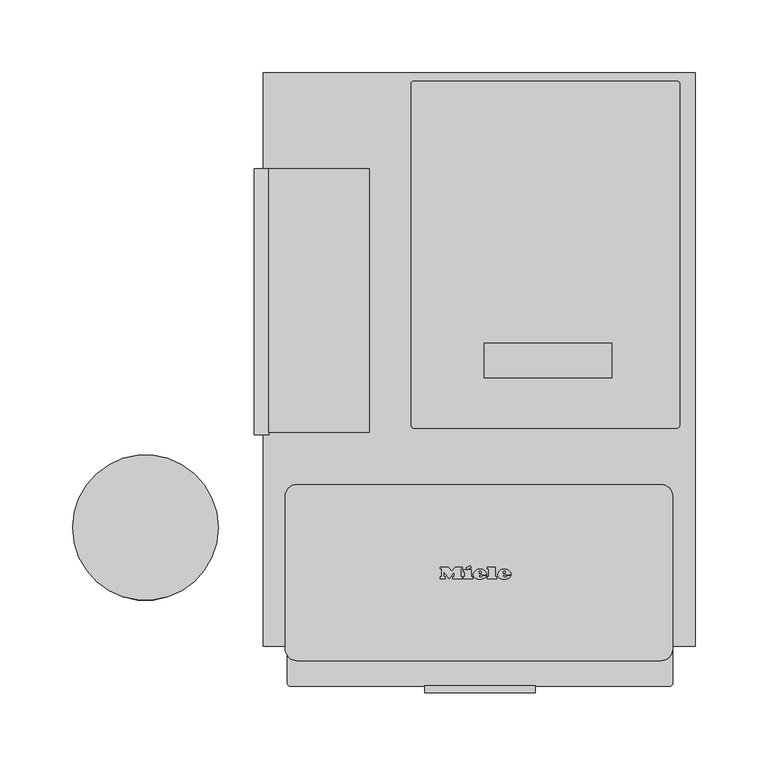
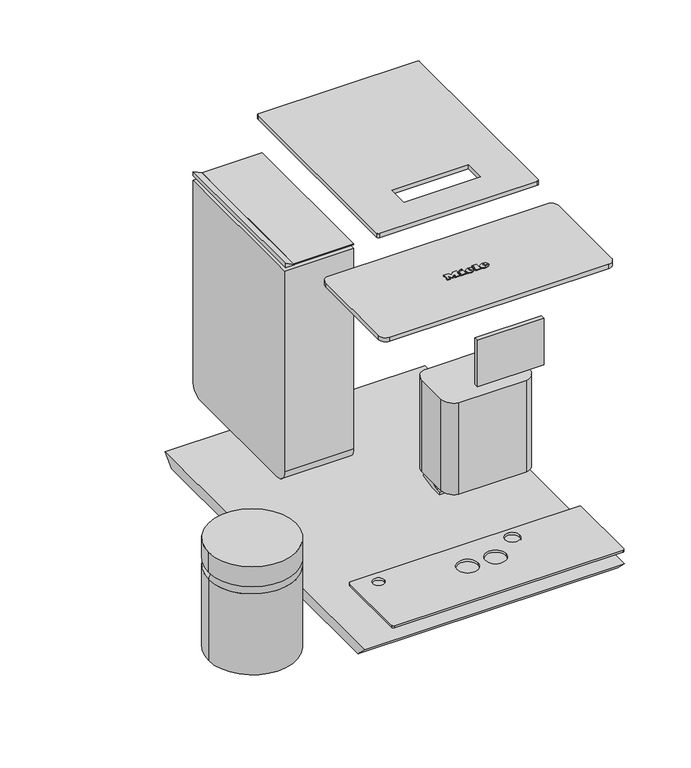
"""IFC4 building model written with IfcOpenShell, lengths in millimetres: proxy geometry, 10947410_D_CM7550_OBSW : 29755020_D_10947410_CM7550_OBSW."""

from ifc_helpers import new_model, si_unit, point, frame, frame_2d, origin, place, context, project, spatial, polyline, circle_curve, ellipse_curve, trimmed, segment, composite_curve, outline, extrude, source, transform, mapped, element, save
from ifc_brep_helpers import plane_surface, cylinder_surface, revolved_surface, extruded_surface, advanced_brep


def specialty_equipment_66c0ec8a(model_context):
    return source(origin(), model_context, "Body", "SolidModel", [
        advanced_brep(
        [(48.9347044, -350.553441, 157.6595251), (48.9347044, -352.1242227, 164.4633282), (48.9347044, -358.515093, 164.4633282), (48.9347044, -370.8076358, 161.8504675), (48.9347044, -371.768887, 161.3772661), (48.9347044, -376.3814874, 157.3675938), (48.9347044, -382.6123957, 157.3675938), (48.9347044, -382.6123957, 154.4386806), (48.9347044, -368.8197581, 154.4386806), (-49.1367985, -350.553441, 157.6595251), (-49.1367985, -368.8197581, 154.4386806), (-49.1367985, -382.6123957, 154.4386806), (-49.1367985, -382.6123957, 157.3675938), (-49.1367985, -376.3814874, 157.3675938), (-49.1367985, -371.768887, 161.3772661), (-49.1367985, -370.8076358, 161.8504675), (-49.1367985, -358.515093, 164.4633282), (-49.1367985, -352.1242227, 164.4633282), (-26.907768, -371.768887, 161.3772661), (26.907768, -371.768887, 161.3772661), (27.9558868, -374.6430309, 158.8788109), (27.9558868, -376.3814874, 157.3675938), (-27.9558868, -376.3814874, 157.3675938), (-27.9558868, -374.6430309, 158.8788109), (27.9558868, -382.6123957, 157.3675938), (-27.9558868, -382.6123957, 157.3675938), (27.9558868, -382.6123957, 154.4386806), (-27.9558868, -382.6123957, 154.4386806), (27.9558868, -374.6430309, 154.4386806), (21.9798889, -369.1927719, 154.4386806), (3.5988064, -369.1927719, 154.4386806), (2.7634089, -368.8197581, 154.4386806), (-2.955399, -368.8197581, 154.4386806), (-3.6390347, -369.1927719, 154.4386806), (-21.9798889, -369.1927719, 154.4386806), (-27.9558868, -374.6430309, 154.4386806), (2.501261, -367.8379104, 154.6118068), (2.5085862, -365.8421526, 154.9637128), (-2.5488111, -365.8411419, 154.963891), (-2.5488111, -367.8394647, 154.6115327), (-21.9798889, -369.1927719, 161.3772661), (-3.6390347, -369.1927719, 161.3772661), (-2.5488111, -367.8394647, 161.3772661), (-2.5488111, -365.8411419, 161.3772661), (2.5085862, -365.8421526, 161.3772661), (2.5085862, -367.8394647, 161.3772661), (3.5988064, -369.1927719, 161.3772661), (21.9798889, -369.1927719, 161.3772661)],
        [
            (0, 1),
            (1, 2),
            (2, 3),
            (3, 4, circle_curve(frame((48.9347044, -370.3539063, 159.7158378), z_axis=(1.0, 0.0, 0.0), x_axis=(0.0, 1.0, 0.0)), 2.1823186)),
            (4, 5),
            (5, 6),
            (6, 7),
            (7, 8),
            (8, 0),
            (9, 10),
            (10, 11),
            (11, 12),
            (12, 13),
            (13, 14),
            (14, 15, circle_curve(frame((-49.1367985, -370.3539063, 159.7158378), z_axis=(-1.0, 0.0, 0.0), x_axis=(0.0, 1.0, 0.0)), 2.1823186)),
            (15, 16),
            (16, 17),
            (17, 9),
            (0, 9),
            (17, 1),
            (16, 2),
            (15, 3),
            (14, 18),
            (18, 19),
            (19, 4),
            (19, 20, ellipse_curve(frame((21.9798889, -375.1941266, 158.3997508), z_axis=(0.0, 0.6560590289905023, -0.7547095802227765), x_axis=(0.0, 0.7547095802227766, 0.6560590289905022)), 7.9518729, 6.0013546)),
            (20, 21),
            (21, 5),
            (13, 22),
            (22, 23),
            (23, 18, ellipse_curve(frame((-21.9798889, -375.1941266, 158.3997508), z_axis=(0.0, 0.6560590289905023, -0.7547095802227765), x_axis=(0.0, 0.7547095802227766, 0.6560590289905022)), 7.9518729, 6.0013546)),
            (21, 24),
            (24, 6),
            (12, 25),
            (25, 22),
            (24, 26),
            (26, 7),
            (11, 27),
            (27, 25),
            (26, 28),
            (28, 29, circle_curve(frame((21.9798889, -375.1941266, 154.4386806), z_axis=(0.0, 0.0, 1.0), x_axis=(1.0, 0.0, 0.0)), 6.0013546)),
            (29, 30),
            (30, 31, circle_curve(frame((3.5988064, -368.0707917, 154.4386806), z_axis=(0.0, 0.0, -1.0), x_axis=(1.0, 0.0, 0.0)), 1.1219802)),
            (31, 8),
            (10, 32),
            (32, 33, circle_curve(frame((-3.9338609, -367.8394647, 154.4386806), z_axis=(0.0, 0.0, -1.0), x_axis=(1.0, 0.0, 0.0)), 1.3850498)),
            (33, 34),
            (34, 35, circle_curve(frame((-21.9798889, -375.1941266, 154.4386806), z_axis=(0.0, 0.0, 1.0), x_axis=(1.0, 0.0, 0.0)), 6.0013546)),
            (35, 27),
            (31, 36, ellipse_curve(frame((3.5988064, -368.0707917, 154.5707435), z_axis=(0.0, 0.17364817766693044, -0.984807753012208), x_axis=(0.0, -0.9848077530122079, -0.17364817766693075)), 1.1392885, 1.1219802)),
            (36, 37),
            (37, 38, ellipse_curve(frame((-0.0204016, -367.2885217, 154.7086789), z_axis=(0.0, -0.17364817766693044, 0.984807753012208), x_axis=(0.0, 0.9848077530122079, 0.17364817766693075)), 2.9583201, 2.9133766)),
            (38, 39),
            (39, 32, ellipse_curve(frame((-3.9338609, -367.8394647, 154.6115327), z_axis=(0.0, 0.17364817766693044, -0.984807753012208), x_axis=(0.0, -0.9848077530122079, -0.17364817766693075)), 1.4064164, 1.3850498)),
            (40, 41),
            (41, 42, circle_curve(frame((-3.9338609, -367.8394647, 161.3772661), z_axis=(0.0, 0.0, 1.0), x_axis=(1.0, 0.0, 0.0)), 1.3850498)),
            (42, 43),
            (43, 44, circle_curve(frame((-0.0204016, -367.2885217, 161.3772661), z_axis=(0.0, 0.0, -1.0), x_axis=(1.0, 0.0, 0.0)), 2.9133766)),
            (44, 45),
            (45, 46, circle_curve(frame((3.5988064, -368.0707917, 161.3772661), z_axis=(0.0, 0.0, 1.0), x_axis=(1.0, 0.0, 0.0)), 1.1219802)),
            (46, 47),
            (47, 19, circle_curve(frame((21.9798889, -375.1941266, 161.3772661), z_axis=(0.0, 0.0, -1.0), x_axis=(1.0, 0.0, 0.0)), 6.0013546)),
            (18, 40, circle_curve(frame((-21.9798889, -375.1941266, 161.3772661), z_axis=(0.0, 0.0, -1.0), x_axis=(1.0, 0.0, 0.0)), 6.0013546)),
            (46, 30),
            (29, 47),
            (45, 36),
            (44, 37),
            (43, 38),
            (42, 39),
            (41, 33),
            (40, 34),
            (23, 35),
            (20, 28),
        ],
        [
            plane_surface(frame((48.9347044, -352.1242227, 164.4633282), z_axis=(1.0, 0.0, 0.0), x_axis=(0.0, -0.22495105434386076, 0.9743700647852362))),
            plane_surface(frame((-49.1367985, -352.1242227, 164.4633282), z_axis=(-1.0, 0.0, 0.0), x_axis=(0.0, 0.22495105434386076, -0.9743700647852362))),
            plane_surface(frame((48.9347044, -350.553441, 157.6595251), z_axis=(0.0, 0.9743700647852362, 0.22495105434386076), x_axis=(-1.0, 0.0, 0.0))),
            plane_surface(frame((48.9347044, -352.1242227, 164.4633282), z_axis=(0.0, 0.0, 1.0), x_axis=(-1.0, 0.0, 0.0))),
            plane_surface(frame((48.9347044, -358.515093, 164.4633282), z_axis=(0.0, -0.20791169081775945, 0.9781476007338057), x_axis=(-1.0, 0.0, 0.0))),
            cylinder_surface(frame((-49.1367985, -370.3539063, 159.7158378), z_axis=(1.0, 0.0, 0.0), x_axis=(0.0, 1.0, 0.0)), 2.1823186),
            plane_surface(frame((48.9347044, -371.768887, 161.3772661), z_axis=(0.0, -0.6560590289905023, 0.7547095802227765), x_axis=(-1.0, 0.0, 0.0))),
            plane_surface(frame((48.9347044, -376.3814874, 157.3675938), z_axis=(0.0, 0.0, 1.0), x_axis=(-1.0, 0.0, 0.0))),
            plane_surface(frame((48.9347044, -382.6123957, 157.3675938), z_axis=(0.0, -1.0, 0.0), x_axis=(-1.0, 0.0, 0.0))),
            plane_surface(frame((48.9347044, -382.6123957, 154.4386806), z_axis=(0.0, 0.0, -1.0), x_axis=(-1.0, 0.0, 0.0))),
            plane_surface(frame((48.9347044, -368.8197581, 154.4386806), z_axis=(0.0, 0.17364817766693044, -0.984807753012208), x_axis=(-1.0, 0.0, 0.0))),
            plane_surface(frame((3.5988064, -369.1927719, 161.3772661), z_axis=(0.0, 0.0, -1.0), x_axis=(-1.0, 0.0, 0.0))),
            plane_surface(frame((21.9798889, -369.1927719, 161.3772661), z_axis=(0.0, -1.0, 0.0), x_axis=(0.0, 0.0, -1.0))),
            cylinder_surface(frame((3.5988064, -368.0707917, 148.8055891), z_axis=(0.0, 0.0, -1.0), x_axis=(1.0, 0.0, 0.0)), 1.1219802),
            plane_surface(frame((2.5085862, -367.8394647, 161.3772661), z_axis=(-1.0, 0.0, 0.0), x_axis=(0.0, 0.0, -1.0))),
            revolved_surface(polyline([(2.892975, -367.2885217, 161.3772661), (2.892975, -367.2885217, 154.19497200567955)]), (-0.0204016, -367.2885217, 148.8055891), (0.0, 0.0, 1.0)),
            plane_surface(frame((-2.5488111, -365.8411419, 161.3772661), z_axis=(1.0, 0.0, 0.0), x_axis=(0.0, 0.0, -1.0))),
            cylinder_surface(frame((-3.9338609, -367.8394647, 148.8055891), z_axis=(0.0, 0.0, -1.0), x_axis=(1.0, 0.0, 0.0)), 1.3850498),
            plane_surface(frame((-3.6390347, -369.1927719, 161.3772661), z_axis=(0.0, -1.0, 0.0), x_axis=(0.0, 0.0, -1.0))),
            revolved_surface(polyline([(-15.9785343, -375.1941266, 163.6166488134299), (-15.9785343, -375.1941266, 153.1828527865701)]), (-21.9798889, -375.1941266, 148.8055891), (0.0, 0.0, 1.0)),
            plane_surface(frame((-27.9558868, -374.6430309, 161.3772661), z_axis=(1.0, 0.0, 0.0), x_axis=(0.0, 0.0, -1.0))),
            plane_surface(frame((27.9558868, -386.10478, 161.3772661), z_axis=(-1.0, 0.0, 0.0), x_axis=(0.0, 0.0, -1.0))),
            revolved_surface(polyline([(27.981243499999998, -375.1941266, 163.6166488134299), (27.981243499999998, -375.1941266, 153.1828527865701)]), (21.9798889, -375.1941266, 148.8055891), (0.0, 0.0, 1.0)),
        ],
        [
            (0, [[1, 2, 3, 4, 5, 6, 7, 8, 9]]),
            (1, [[10, 11, 12, 13, 14, 15, 16, 17, 18]]),
            (2, [[-1, 19, -18, 20]]),
            (3, [[-2, -20, -17, 21]]),
            (4, [[-3, -21, -16, 22]]),
            (5, [[-4, -22, -15, 23, 24, 25]]),
            (6, [[-5, -25, 26, 27, 28]]),
            (6, [[-14, 29, 30, 31, -23]]),
            (7, [[-6, -28, 32, 33]]),
            (7, [[-13, 34, 35, -29]]),
            (8, [[-7, -33, 36, 37]]),
            (8, [[-12, 38, 39, -34]]),
            (9, [[-8, -37, 40, 41, 42, 43, 44]]),
            (9, [[-11, 45, 46, 47, 48, 49, -38]]),
            (10, [[-9, -44, 50, 51, 52, 53, 54, -45, -10, -19]]),
            (11, [[55, 56, 57, 58, 59, 60, 61, 62, -24, 63]]),
            (12, [[-61, 64, -42, 65]]),
            (13, [[-60, 66, -50, -43, -64]]),
            (14, [[-59, 67, -51, -66]]),
            (15, [[-58, 68, -52, -67]]),
            (16, [[-57, 69, -53, -68]]),
            (17, [[-56, 70, -46, -54, -69]]),
            (18, [[-55, 71, -47, -70]]),
            (19, [[-63, -31, 72, -48, -71]]),
            (20, [[-72, -30, -35, -39, -49]]),
            (21, [[73, -40, -36, -32, -27]]),
            (22, [[-62, -65, -41, -73, -26]]),
        ],
    ),
        extrude(outline(composite_curve([segment(polyline([(38.3905057, -403.7777426), (-39.7114952, -403.7777426)]), True, "CONTINUOUS"), segment(trimmed(circle_curve(frame_2d((-35.7828285, -388.5783629)), 15.6989033), [point((-39.7114952, -403.7777426))], [point((-51.4817318, -388.5783629))], False, "CARTESIAN"), True, "CONTINUOUS"), segment(polyline([(-51.4817318, -388.5783629), (-51.4817318, -350.8926661)]), True, "CONTINUOUS"), segment(trimmed(circle_curve(frame_2d((-37.9279503, -350.8926661)), 13.5537815), [point((-51.4817318, -350.8926661))], [point((-37.9279503, -337.3388846))], False, "CARTESIAN"), True, "CONTINUOUS"), segment(polyline([(-37.9279503, -337.3388846), (36.6069608, -337.3388846)]), True, "CONTINUOUS"), segment(trimmed(circle_curve(frame_2d((36.6069608, -350.8926661)), 13.5537815), [point((36.6069608, -337.3388846))], [point((50.1607423, -350.8926661))], False, "CARTESIAN"), True, "CONTINUOUS"), segment(polyline([(50.1607423, -350.8926661), (50.1607423, -388.5783629)]), True, "CONTINUOUS"), segment(trimmed(circle_curve(frame_2d((34.461839, -388.5783629)), 15.6989033), [point((50.1607423, -388.5783629))], [point((38.3905057, -403.7777426))], False, "CARTESIAN"), True, "CONTINUOUS")], self_intersect=False)), frame((0.0, 0.0, 164.4633282), z_axis=(0.0, 0.0, 1.0), x_axis=(1.0, 0.0, 0.0)), (0.0, 0.0, 1.0), 110.4083251),
        extrude(outline(composite_curve([segment(trimmed(circle_curve(frame_2d((130.7278103, -348.6990032)), 2.0), [point((130.7278103, -346.6990032))], [point((132.7278103, -348.6990032))], False, "CARTESIAN"), True, "CONTINUOUS"), segment(polyline([(132.7278103, -348.6990032), (132.7278103, -431.7959701)]), True, "CONTINUOUS"), segment(trimmed(circle_curve(frame_2d((130.7278103, -431.7959701)), 2.0), [point((132.7278103, -431.7959701))], [point((130.7278103, -433.7959701))], False, "CARTESIAN"), True, "CONTINUOUS"), segment(polyline([(130.7278103, -433.7959701), (-130.3254782, -433.7959701)]), True, "CONTINUOUS"), segment(trimmed(circle_curve(frame_2d((-130.3254782, -431.7959701)), 2.0), [point((-130.3254782, -433.7959701))], [point((-132.3254782, -431.7959701))], False, "CARTESIAN"), True, "CONTINUOUS"), segment(polyline([(-132.3254782, -431.7959701), (-132.3254782, -348.6990032)]), True, "CONTINUOUS"), segment(trimmed(circle_curve(frame_2d((-130.3254782, -348.6990032)), 2.0), [point((-132.3254782, -348.6990032))], [point((-130.3254782, -346.6990032))], False, "CARTESIAN"), True, "CONTINUOUS"), segment(polyline([(-130.3254782, -346.6990032), (130.7278103, -346.6990032)]), True, "CONTINUOUS")], self_intersect=False), holes=[composite_curve([segment(trimmed(circle_curve(frame_2d((-106.0, -360.0695515)), 6.5), [point((-112.5, -360.0695515))], [point((-99.5, -360.0695515))], True, "CARTESIAN"), True, "CONTINUOUS"), segment(trimmed(circle_curve(frame_2d((-106.0, -360.0695515)), 6.5), [point((-99.5, -360.0695515))], [point((-112.5, -360.0695515))], True, "CARTESIAN"), True, "CONTINUOUS")], self_intersect=False), composite_curve([segment(trimmed(circle_curve(frame_2d((47.0, -360.0695515)), 8.3097553), [point((38.6902447, -360.0695515))], [point((55.3097553, -360.0695515))], True, "CARTESIAN"), True, "CONTINUOUS"), segment(trimmed(circle_curve(frame_2d((47.0, -360.0695515)), 8.3097553), [point((55.3097553, -360.0695515))], [point((38.6902447, -360.0695515))], True, "CARTESIAN"), True, "CONTINUOUS")], self_intersect=False), composite_curve([segment(trimmed(circle_curve(frame_2d((-16.2949549, -381.0695496)), 11.8347447), [point((-28.1296996, -381.0695496))], [point((-4.4602101, -381.0695496))], True, "CARTESIAN"), True, "CONTINUOUS"), segment(trimmed(circle_curve(frame_2d((-16.2949549, -381.0695496)), 11.8347447), [point((-4.4602101, -381.0695496))], [point((-28.1296996, -381.0695496))], True, "CARTESIAN"), True, "CONTINUOUS")], self_intersect=False), composite_curve([segment(trimmed(circle_curve(frame_2d((15.7158998, -381.0695496)), 11.8148867), [point((3.9010131, -381.0695496))], [point((27.5307866, -381.0695496))], True, "CARTESIAN"), True, "CONTINUOUS"), segment(trimmed(circle_curve(frame_2d((15.7158998, -381.0695496)), 11.8148867), [point((27.5307866, -381.0695496))], [point((3.9010131, -381.0695496))], True, "CARTESIAN"), True, "CONTINUOUS")], self_intersect=False)]), frame((0.0, 0.0, 53.082887), z_axis=(0.0, 0.0, 1.0), x_axis=(1.0, 0.0, 0.0)), (0.0, 0.0, 1.0), 2.5999991),
        advanced_brep(
        [(16.1938716, -357.9860073, 393.0), (16.1938716, -357.1780073, 393.0), (21.5458716, -357.1780073, 393.0), (12.2338716, -357.1780073, 393.0), (14.4338716, -359.8820073, 393.0), (21.4098716, -357.9860073, 393.0), (18.9938716, -357.9860073, 393.0), (17.0898716, -358.8820073, 393.0), (16.1938716, -356.1540073, 393.0), (16.1938716, -355.2820073, 393.0), (17.5618716, -355.2820073, 393.0), (17.5618716, -356.1540073, 393.0), (16.1938716, -357.9860073, 392.0), (17.0898716, -358.8820073, 392.0), (18.9938716, -357.9860073, 392.0), (21.4098716, -357.9860073, 392.0), (14.4338716, -359.8820073, 392.0), (12.2338716, -357.1780073, 392.0), (21.5458716, -357.1780073, 392.0), (16.1938716, -357.1780073, 392.0), (16.1938716, -356.1540073, 392.0), (17.5618716, -356.1540073, 392.0), (17.5618716, -355.2820073, 392.0), (16.1938716, -355.2820073, 392.0)],
        [
            (0, 1),
            (1, 2),
            (2, 3, ellipse_curve(frame((16.8898716, -357.1780073, 393.0), z_axis=(0.0, 0.0, 1.0), x_axis=(-1.0, 0.0, 0.0)), 4.656, 3.848)),
            (3, 4, circle_curve(frame((15.3299152, -356.9060073, 393.0), z_axis=(0.0, 0.0, 1.0), x_axis=(0.0, -1.0, 0.0)), 3.1079688)),
            (4, 5, circle_curve(frame((16.7966651, -354.7940073, 393.0), z_axis=(0.0, 0.0, 1.0), x_axis=(0.0, -1.0, 0.0)), 5.6098607)),
            (5, 6),
            (6, 7, circle_curve(frame((17.4809304, -357.2420073, 393.0), z_axis=(0.0, 0.0, -1.0), x_axis=(0.0, -1.0, 0.0)), 1.6859795)),
            (7, 0, circle_curve(frame((17.0898716, -357.9860073, 393.0), z_axis=(0.0, 0.0, -1.0), x_axis=(0.0, -1.0, 0.0)), 0.896)),
            (8, 9),
            (9, 10, circle_curve(frame((16.8778716, -355.2820073, 393.0), z_axis=(0.0, 0.0, -1.0), x_axis=(0.0, -1.0, 0.0)), 0.684)),
            (10, 11),
            (11, 8),
            (12, 13, circle_curve(frame((17.0898716, -357.9860073, 392.0), z_axis=(0.0, 0.0, 1.0), x_axis=(0.0, -1.0, 0.0)), 0.896)),
            (13, 14, circle_curve(frame((17.4809304, -357.2420073, 392.0), z_axis=(0.0, 0.0, 1.0), x_axis=(0.0, -1.0, 0.0)), 1.6859795)),
            (14, 15),
            (15, 16, circle_curve(frame((16.7966651, -354.7940073, 392.0), z_axis=(0.0, 0.0, -1.0), x_axis=(0.0, -1.0, 0.0)), 5.6098607)),
            (16, 17, circle_curve(frame((15.3299152, -356.9060073, 392.0), z_axis=(0.0, 0.0, -1.0), x_axis=(0.0, -1.0, 0.0)), 3.1079688)),
            (17, 18, ellipse_curve(frame((16.8898716, -357.1780073, 392.0), z_axis=(0.0, 0.0, -1.0), x_axis=(-1.0, 0.0, 0.0)), 4.656, 3.848)),
            (18, 19),
            (19, 12),
            (20, 21),
            (21, 22),
            (22, 23, circle_curve(frame((16.8778716, -355.2820073, 392.0), z_axis=(0.0, 0.0, 1.0), x_axis=(0.0, -1.0, 0.0)), 0.684)),
            (23, 20),
            (0, 12),
            (19, 1),
            (18, 2),
            (5, 15),
            (14, 6),
            (17, 3),
            (13, 7),
            (16, 4),
            (8, 20),
            (23, 9),
            (22, 10),
            (21, 11),
        ],
        [
            plane_surface(frame((16.1938716, -357.1780073, 393.0), z_axis=(0.0, 0.0, 1.0), x_axis=(0.0, 1.0, 0.0))),
            plane_surface(frame((16.1938716, -357.1780073, 392.0), z_axis=(0.0, 0.0, -1.0), x_axis=(0.0, -1.0, 0.0))),
            plane_surface(frame((16.1938716, -357.9860073, 393.0), z_axis=(1.0, 0.0, 0.0), x_axis=(0.0, 0.0, -1.0))),
            plane_surface(frame((16.1938716, -357.1780073, 393.0), z_axis=(0.0, -1.0, 0.0), x_axis=(0.0, 0.0, -1.0))),
            plane_surface(frame((21.4098716, -357.9860073, 393.0), z_axis=(0.0, 1.0, 0.0), x_axis=(0.0, 0.0, -1.0))),
            extruded_surface(trimmed(ellipse_curve(frame((16.8898716, -357.1780073, 391.0), z_axis=(0.0, 0.0, 1.0), x_axis=(-1.0, 0.0, 0.0)), 4.656, 3.848), [point((21.5458716, -357.1780073, 391.0))], [point((12.2338716, -357.1780073, 391.0))], True, "CARTESIAN"), (0.0, 0.0, 1.0), 1.0),
            revolved_surface(polyline([(17.4809304, -358.9279868, 392.0), (17.4809304, -358.9279868, 393.0)]), (17.4809304, -357.2420073, 392.0), (0.0, 0.0, -1.0)),
            revolved_surface(polyline([(17.0898716, -358.8820073, 392.0), (17.0898716, -358.8820073, 393.0)]), (17.0898716, -357.9860073, 392.0), (0.0, 0.0, -1.0)),
            cylinder_surface(frame((15.3299152, -356.9060073, 392.0), z_axis=(0.0, 0.0, 1.0), x_axis=(0.0, -1.0, 0.0)), 3.1079688),
            cylinder_surface(frame((16.7966651, -354.7940073, 392.0), z_axis=(0.0, 0.0, 1.0), x_axis=(0.0, -1.0, 0.0)), 5.6098607),
            plane_surface(frame((16.1938716, -356.1540073, 393.0), z_axis=(1.0, 0.0, 0.0), x_axis=(0.0, 0.0, -1.0))),
            revolved_surface(polyline([(16.8778716, -355.9660073, 392.0), (16.8778716, -355.9660073, 393.0)]), (16.8778716, -355.2820073, 392.0), (0.0, 0.0, -1.0)),
            plane_surface(frame((17.5618716, -355.2820073, 393.0), z_axis=(-1.0, 0.0, 0.0), x_axis=(0.0, 0.0, -1.0))),
            plane_surface(frame((17.5618716, -356.1540073, 393.0), z_axis=(0.0, 1.0, 0.0), x_axis=(0.0, 0.0, -1.0))),
        ],
        [
            (0, [[1, 2, 3, 4, 5, 6, 7, 8], [9, 10, 11, 12]]),
            (1, [[13, 14, 15, 16, 17, 18, 19, 20], [21, 22, 23, 24]]),
            (2, [[-1, 25, -20, 26]]),
            (3, [[-2, -26, -19, 27]]),
            (4, [[-6, 28, -15, 29]]),
            (5, [[-3, -27, -18, 30]]),
            (6, [[-7, -29, -14, 31]]),
            (7, [[-8, -31, -13, -25]]),
            (8, [[-4, -30, -17, 32]]),
            (9, [[-5, -32, -16, -28]]),
            (10, [[-9, 33, -24, 34]]),
            (11, [[-10, -34, -23, 35]]),
            (12, [[-11, -35, -22, 36]]),
            (13, [[-12, -36, -21, -33]]),
        ],
    ),
        advanced_brep(
        [(-0.5021284, -357.9860073, 393.0), (-0.5021284, -357.1780073, 393.0), (4.8498716, -357.1780073, 393.0), (-4.4621284, -357.1780073, 393.0), (-2.2621284, -359.8820073, 393.0), (4.7138716, -357.9860073, 393.0), (2.2978716, -357.9860073, 393.0), (0.3938716, -358.8820073, 393.0), (-0.5021284, -356.1540073, 393.0), (-0.5021284, -355.2820073, 393.0), (0.8658716, -355.2820073, 393.0), (0.8658716, -356.1540073, 393.0), (-0.5021284, -357.9860073, 392.0), (0.3938716, -358.8820073, 392.0), (2.2978716, -357.9860073, 392.0), (4.7138716, -357.9860073, 392.0), (-2.2621284, -359.8820073, 392.0), (-4.4621284, -357.1780073, 392.0), (4.8498716, -357.1780073, 392.0), (-0.5021284, -357.1780073, 392.0), (-0.5021284, -356.1540073, 392.0), (0.8658716, -356.1540073, 392.0), (0.8658716, -355.2820073, 392.0), (-0.5021284, -355.2820073, 392.0)],
        [
            (0, 1),
            (1, 2),
            (2, 3, ellipse_curve(frame((0.1938716, -357.1780073, 393.0), z_axis=(0.0, 0.0, 1.0), x_axis=(-1.0, 0.0, 0.0)), 4.656, 3.848)),
            (3, 4, circle_curve(frame((-1.3660848, -356.9060073, 393.0), z_axis=(0.0, 0.0, 1.0), x_axis=(0.0, -1.0, 0.0)), 3.1079688)),
            (4, 5, circle_curve(frame((0.1006651, -354.7940073, 393.0), z_axis=(0.0, 0.0, 1.0), x_axis=(0.0, -1.0, 0.0)), 5.6098607)),
            (5, 6),
            (6, 7, circle_curve(frame((0.7849304, -357.2420073, 393.0), z_axis=(0.0, 0.0, -1.0), x_axis=(0.0, -1.0, 0.0)), 1.6859795)),
            (7, 0, circle_curve(frame((0.3938716, -357.9860073, 393.0), z_axis=(0.0, 0.0, -1.0), x_axis=(0.0, -1.0, 0.0)), 0.896)),
            (8, 9),
            (9, 10, circle_curve(frame((0.1818716, -355.2820073, 393.0), z_axis=(0.0, 0.0, -1.0), x_axis=(0.0, -1.0, 0.0)), 0.684)),
            (10, 11),
            (11, 8),
            (12, 13, circle_curve(frame((0.3938716, -357.9860073, 392.0), z_axis=(0.0, 0.0, 1.0), x_axis=(0.0, -1.0, 0.0)), 0.896)),
            (13, 14, circle_curve(frame((0.7849304, -357.2420073, 392.0), z_axis=(0.0, 0.0, 1.0), x_axis=(0.0, -1.0, 0.0)), 1.6859795)),
            (14, 15),
            (15, 16, circle_curve(frame((0.1006651, -354.7940073, 392.0), z_axis=(0.0, 0.0, -1.0), x_axis=(0.0, -1.0, 0.0)), 5.6098607)),
            (16, 17, circle_curve(frame((-1.3660848, -356.9060073, 392.0), z_axis=(0.0, 0.0, -1.0), x_axis=(0.0, -1.0, 0.0)), 3.1079688)),
            (17, 18, ellipse_curve(frame((0.1938716, -357.1780073, 392.0), z_axis=(0.0, 0.0, -1.0), x_axis=(-1.0, 0.0, 0.0)), 4.656, 3.848)),
            (18, 19),
            (19, 12),
            (20, 21),
            (21, 22),
            (22, 23, circle_curve(frame((0.1818716, -355.2820073, 392.0), z_axis=(0.0, 0.0, 1.0), x_axis=(0.0, -1.0, 0.0)), 0.684)),
            (23, 20),
            (0, 12),
            (19, 1),
            (18, 2),
            (5, 15),
            (14, 6),
            (17, 3),
            (13, 7),
            (16, 4),
            (8, 20),
            (23, 9),
            (22, 10),
            (21, 11),
        ],
        [
            plane_surface(frame((-0.5021284, -357.1780073, 393.0), z_axis=(0.0, 0.0, 1.0), x_axis=(0.0, 1.0, 0.0))),
            plane_surface(frame((-0.5021284, -357.1780073, 392.0), z_axis=(0.0, 0.0, -1.0), x_axis=(0.0, -1.0, 0.0))),
            plane_surface(frame((-0.5021284, -357.9860073, 393.0), z_axis=(1.0, 0.0, 0.0), x_axis=(0.0, 0.0, -1.0))),
            plane_surface(frame((-0.5021284, -357.1780073, 393.0), z_axis=(0.0, -1.0, 0.0), x_axis=(0.0, 0.0, -1.0))),
            plane_surface(frame((4.7138716, -357.9860073, 393.0), z_axis=(0.0, 1.0, 0.0), x_axis=(0.0, 0.0, -1.0))),
            extruded_surface(trimmed(ellipse_curve(frame((0.1938716, -357.1780073, 391.0), z_axis=(0.0, 0.0, 1.0), x_axis=(-1.0, 0.0, 0.0)), 4.656, 3.848), [point((4.8498716, -357.1780073, 391.0))], [point((-4.4621284, -357.1780073, 391.0))], True, "CARTESIAN"), (0.0, 0.0, 1.0), 1.0),
            revolved_surface(polyline([(0.7849304, -358.9279868, 392.0), (0.7849304, -358.9279868, 393.0)]), (0.7849304, -357.2420073, 392.0), (0.0, 0.0, -1.0)),
            revolved_surface(polyline([(0.3938716, -358.8820073, 392.0), (0.3938716, -358.8820073, 393.0)]), (0.3938716, -357.9860073, 392.0), (0.0, 0.0, -1.0)),
            cylinder_surface(frame((-1.3660848, -356.9060073, 392.0), z_axis=(0.0, 0.0, 1.0), x_axis=(0.0, -1.0, 0.0)), 3.1079688),
            cylinder_surface(frame((0.1006651, -354.7940073, 392.0), z_axis=(0.0, 0.0, 1.0), x_axis=(0.0, -1.0, 0.0)), 5.6098607),
            plane_surface(frame((-0.5021284, -356.1540073, 393.0), z_axis=(1.0, 0.0, 0.0), x_axis=(0.0, 0.0, -1.0))),
            revolved_surface(polyline([(0.1818716, -355.9660073, 392.0), (0.1818716, -355.9660073, 393.0)]), (0.1818716, -355.2820073, 392.0), (0.0, 0.0, -1.0)),
            plane_surface(frame((0.8658716, -355.2820073, 393.0), z_axis=(-1.0, 0.0, 0.0), x_axis=(0.0, 0.0, -1.0))),
            plane_surface(frame((0.8658716, -356.1540073, 393.0), z_axis=(0.0, 1.0, 0.0), x_axis=(0.0, 0.0, -1.0))),
        ],
        [
            (0, [[1, 2, 3, 4, 5, 6, 7, 8], [9, 10, 11, 12]]),
            (1, [[13, 14, 15, 16, 17, 18, 19, 20], [21, 22, 23, 24]]),
            (2, [[-1, 25, -20, 26]]),
            (3, [[-2, -26, -19, 27]]),
            (4, [[-6, 28, -15, 29]]),
            (5, [[-3, -27, -18, 30]]),
            (6, [[-7, -29, -14, 31]]),
            (7, [[-8, -31, -13, -25]]),
            (8, [[-4, -30, -17, 32]]),
            (9, [[-5, -32, -16, -28]]),
            (10, [[-9, 33, -24, 34]]),
            (11, [[-10, -34, -23, 35]]),
            (12, [[-11, -35, -22, 36]]),
            (13, [[-12, -36, -21, -33]]),
        ],
    ),
        extrude(outline(polyline([(-9.2461284, -352.3540073), (-6.5261284, -351.0900073), (-5.9261284, -352.3860073), (-8.6381284, -353.6500073), (-9.2461284, -352.3540073)])), frame((0.0, 0.0, 392.0), z_axis=(0.0, 0.0, 1.0), x_axis=(1.0, 0.0, 0.0)), (0.0, 0.0, 1.0), 1.0),
        extrude(outline(polyline([(-11.2221284, -353.8260073), (-5.8381284, -353.8260073), (-5.8381284, -358.5380073), (-4.9101284, -358.5380073), (-4.9101284, -359.8820073), (-11.2221284, -359.8820073), (-11.2221284, -358.5380073), (-10.2701284, -358.5380073), (-10.2701284, -355.2580073), (-11.2221284, -355.2580073), (-11.2221284, -353.8260073)])), frame((0.0, 0.0, 392.0), z_axis=(0.0, 0.0, 1.0), x_axis=(1.0, 0.0, 0.0)), (0.0, 0.0, 1.0), 1.0),
        extrude(outline(polyline([(5.2978716, -353.1860073), (5.2978716, -351.8820073), (10.8018716, -351.8820073), (10.8018716, -358.5380073), (11.7858716, -358.5380073), (11.7858716, -359.8820073), (5.2978716, -359.8820073), (5.2978716, -358.5380073), (6.2578716, -358.5380073), (6.2578716, -353.1860073), (5.2978716, -353.1860073)])), frame((0.0, 0.0, 392.0), z_axis=(0.0, 0.0, 1.0), x_axis=(1.0, 0.0, 0.0)), (0.0, 0.0, 1.0), 1.0),
        extrude(outline(polyline([(-27.1661284, -353.1860073), (-27.1661284, -351.8820073), (-21.5901284, -351.8820073), (-19.2461284, -354.8820073), (-16.9101284, -351.8820073), (-12.0381284, -351.8820073), (-12.0381284, -353.1860073), (-13.0541284, -353.1860073), (-13.0541284, -358.5380073), (-12.0381284, -358.5380073), (-12.0381284, -359.8820073), (-18.4221284, -359.8820073), (-18.4221284, -358.5380073), (-17.4381284, -358.5380073), (-17.4381284, -355.066785), (-21.0301284, -359.8820073), (-24.6061284, -355.1348825), (-24.6061284, -358.5380073), (-23.6461284, -358.5380073), (-23.6461284, -359.8820073), (-27.1661284, -359.8820073), (-27.1661284, -358.5380073), (-26.1981284, -358.5380073), (-26.1981284, -353.1860073), (-27.1661284, -353.1860073)])), frame((0.0, 0.0, 392.0), z_axis=(0.0, 0.0, 1.0), x_axis=(1.0, 0.0, 0.0)), (0.0, 0.0, 1.0), 1.0),
        advanced_brep(
        [(-279.9519875, -324.7667381, 97.7197494), (-179.9519875, -324.7667381, 97.7197494), (-179.9519875, -324.7667381, 0.0), (-279.9519875, -324.7667381, 0.0), (-229.9519875, -324.7667381, 0.0), (-229.9519875, -324.7667381, 106.5007718), (-185.3056905, -324.7667381, 106.5007718), (-274.5982845, -324.7667381, 106.5007718)],
        [
            (0, 1, circle_curve(frame((-229.9519875, -324.7667381, 97.7197494), z_axis=(0.0, 0.0, -1.0), x_axis=(1.0, 0.0, 0.0)), 50.0)),
            (1, 2),
            (2, 3, circle_curve(frame((-229.9519875, -324.7667381, 0.0), z_axis=(0.0, 0.0, 1.0), x_axis=(1.0, 0.0, 0.0)), 50.0)),
            (3, 0),
            (1, 0, circle_curve(frame((-229.9519875, -324.7667381, 97.7197494), z_axis=(0.0, 0.0, -1.0), x_axis=(1.0, 0.0, 0.0)), 50.0)),
            (3, 2, circle_curve(frame((-229.9519875, -324.7667381, 0.0), z_axis=(0.0, 0.0, 1.0), x_axis=(1.0, 0.0, 0.0)), 50.0)),
            (2, 4),
            (4, 3),
            (5, 6),
            (6, 7, circle_curve(frame((-229.9519875, -324.7667381, 106.5007718), z_axis=(0.0, 0.0, 1.0), x_axis=(1.0, 0.0, 0.0)), 44.646297)),
            (7, 5),
            (7, 6, circle_curve(frame((-229.9519875, -324.7667381, 106.5007718), z_axis=(0.0, 0.0, 1.0), x_axis=(1.0, 0.0, 0.0)), 44.646297)),
            (6, 1, circle_curve(frame((-191.2406727, -324.7667381, 96.8597103), z_axis=(0.0, 1.0, 0.0), x_axis=(-1.0, 0.0, 0.0)), 11.3213993)),
            (0, 7, circle_curve(frame((-268.6633023, -324.7667381, 96.8597103), z_axis=(0.0, 1.0, 0.0), x_axis=(1.0, 0.0, 0.0)), 11.3213993)),
        ],
        [
            cylinder_surface(frame((-229.9519875, -324.7667381, 107.1212675), z_axis=(0.0, 0.0, 1.0), x_axis=(1.0, 0.0, 0.0)), 50.0),
            plane_surface(frame((-229.9519875, -324.7667381, 0.0), z_axis=(0.0, 0.0, -1.0), x_axis=(1.0, 0.0, 0.0))),
            plane_surface(frame((-229.9519875, -324.7667381, 106.5007718), z_axis=(0.0, 0.0, 1.0), x_axis=(1.0, 0.0, 0.0))),
            revolved_surface(trimmed(ellipse_curve(frame((-191.2406727, -324.7667381, 96.8597103), z_axis=(0.0, -1.0, 0.0), x_axis=(-1.0, 0.0, 0.0)), 11.3213993, 11.3213993), [point((-179.9519875, -324.7667381, 97.7197494))], [point((-185.3056905, -324.7667381, 106.5007718))], True, "CARTESIAN"), (-229.9519875, -324.7667381, 107.1212675), (0.0, 0.0, 1.0)),
        ],
        [
            (0, [[1, 2, 3, 4]]),
            (0, [[5, -4, 6, -2]]),
            (1, [[-3, 7, 8]]),
            (1, [[-6, -8, -7]]),
            (2, [[9, 10, 11]]),
            (2, [[-11, 12, -9]]),
            (3, [[-10, 13, -1, 14]]),
            (3, [[-12, -14, -5, -13]]),
        ],
    ),
        extrude(outline(composite_curve([segment(trimmed(circle_curve(frame_2d((-229.9519875, -324.6697721)), 49.9999986), [point((-179.951989, -324.6697721))], [point((-279.9519861, -324.6697721))], False, "CARTESIAN"), True, "CONTINUOUS"), segment(trimmed(circle_curve(frame_2d((-229.9519875, -324.6697721)), 49.9999986), [point((-279.9519861, -324.6697721))], [point((-179.951989, -324.6697721))], False, "CARTESIAN"), True, "CONTINUOUS")], self_intersect=False)), frame((0.0, 0.0, 106.5007718), z_axis=(0.0, 0.0, 1.0), x_axis=(1.0, 0.0, 0.0)), (0.0, 0.0, 1.0), 24.0056341),
        extrude(outline(polyline([(-38.0, -433.3821149), (38.0, -433.3821149), (38.0, -438.3821149), (-38.0, -438.3821149), (-38.0, -433.3821149)])), frame((0.0, 0.0, 315.0), z_axis=(0.0, 0.0, 1.0), x_axis=(1.0, 0.0, 0.0)), (0.0, 0.0, 1.0), 56.0),
        extrude(outline(composite_curve([segment(polyline([(-133.7733765, -408.1485367), (-133.7733765, -303.1106834)]), True, "CONTINUOUS"), segment(trimmed(circle_curve(frame_2d((-125.7733765, -303.1106834)), 8.0), [point((-133.7733765, -303.1106834))], [point((-125.7733765, -295.1106834))], False, "CARTESIAN"), True, "CONTINUOUS"), segment(polyline([(-125.7733765, -295.1106834), (124.609314, -295.1106834)]), True, "CONTINUOUS"), segment(trimmed(circle_curve(frame_2d((124.609314, -303.1106834)), 8.0), [point((124.609314, -295.1106834))], [point((132.609314, -303.1106834))], False, "CARTESIAN"), True, "CONTINUOUS"), segment(polyline([(132.609314, -303.1106834), (132.609314, -408.1485367)]), True, "CONTINUOUS"), segment(trimmed(circle_curve(frame_2d((124.609314, -408.1485367)), 8.0), [point((132.609314, -408.1485367))], [point((124.609314, -416.1485367))], False, "CARTESIAN"), True, "CONTINUOUS"), segment(polyline([(124.609314, -416.1485367), (-125.7733765, -416.1485367)]), True, "CONTINUOUS"), segment(trimmed(circle_curve(frame_2d((-125.7733765, -408.1485367)), 8.0), [point((-125.7733765, -416.1485367))], [point((-133.7733765, -408.1485367))], False, "CARTESIAN"), True, "CONTINUOUS")], self_intersect=False)), frame((0.0, 0.0, 387.0), z_axis=(0.0, 0.0, 1.0), x_axis=(1.0, 0.0, 0.0)), (0.0, 0.0, 1.0), 5.0),
        extrude(outline(composite_curve([segment(trimmed(circle_curve(frame_2d((-92.7820282, 144.218936)), 14.9999847), [point((-77.7820435, 144.218936))], [point((-92.7820282, 129.2189512))], False, "CARTESIAN"), True, "CONTINUOUS"), segment(polyline([(-92.7820282, 129.2189512), (-243.9820328, 129.2189512)]), True, "CONTINUOUS"), segment(trimmed(circle_curve(frame_2d((-243.9820328, 144.2189512)), 15.0), [point((-243.9820328, 129.2189512))], [point((-258.9820328, 144.2189512))], False, "CARTESIAN"), True, "CONTINUOUS"), segment(polyline([(-258.9820328, 144.2189512), (-258.9820328, 386.6954271), (-77.7820435, 386.6954271), (-77.7820435, 144.218936)]), True, "CONTINUOUS")], self_intersect=False)), frame((-155.0, 0.0, 0.0), z_axis=(1.0, 0.0, 0.0), x_axis=(0.0, 1.0, 0.0)), (0.0, 0.0, 1.0), 78.9431152),
        extrude(outline(polyline([(-76.0568848, -78.0598421), (-76.0568848, -258.9820328), (-145.0, -258.9820328), (-145.0, -78.0598421), (-76.0568848, -78.0598421)])), frame((0.0, 0.0, 390.9522501), z_axis=(0.0, 0.0, 1.0), x_axis=(1.0, 0.0, 0.0)), (0.0, 0.0, 1.0), 1.0477499),
        extrude(outline(polyline([(397.0, -155.0), (392.0, -155.0), (392.0, -145.0), (397.0, -155.0)])), frame((0.0, -260.9311624, 0.0), z_axis=(0.0, 1.0, 0.0), x_axis=(0.0, 0.0, 1.0)), (0.0, 0.0, 1.0), 182.8713203),
        extrude(outline(composite_curve([segment(polyline([(135.4461545, -256.2767487), (-45.1939457, -256.2767487)]), True, "CONTINUOUS"), segment(trimmed(circle_curve(frame_2d((-45.1939457, -254.2767487)), 2.0), [point((-45.1939457, -256.2767487))], [point((-47.1939457, -254.2767487))], False, "CARTESIAN"), True, "CONTINUOUS"), segment(polyline([(-47.1939457, -254.2767487), (-47.1939457, -19.6058425)]), True, "CONTINUOUS"), segment(trimmed(circle_curve(frame_2d((-45.1939457, -19.6058425)), 2.0), [point((-47.1939457, -19.6058425))], [point((-45.1939457, -17.6058425))], False, "CARTESIAN"), True, "CONTINUOUS"), segment(polyline([(-45.1939457, -17.6058425), (135.4461545, -17.6058425)]), True, "CONTINUOUS"), segment(trimmed(circle_curve(frame_2d((135.4461545, -19.6058425)), 2.0), [point((135.4461545, -17.6058425))], [point((137.4461545, -19.6058425))], False, "CARTESIAN"), True, "CONTINUOUS"), segment(polyline([(137.4461545, -19.6058425), (137.4461545, -254.2767487)]), True, "CONTINUOUS"), segment(trimmed(circle_curve(frame_2d((135.4461545, -254.2767487)), 2.0), [point((137.4461545, -254.2767487))], [point((135.4461545, -256.2767487))], False, "CARTESIAN"), True, "CONTINUOUS")], self_intersect=False), holes=[polyline([(90.62064, -197.7958527), (3.1783933, -197.7958527), (3.1783933, -221.7820282), (90.62064, -221.7820282), (90.62064, -197.7958527)])]), frame((0.0, 0.0, 387.0), z_axis=(0.0, 0.0, 1.0), x_axis=(1.0, 0.0, 0.0)), (0.0, 0.0, 1.0), 5.0),
        extrude(outline(polyline([(-393.4491391, 3.6999998), (-406.1485367, 16.3993974), (-11.8826282, 16.3993974), (-24.5820258, 3.6999998), (-393.4491391, 3.6999998)])), frame((-148.7757104, 0.0, 0.0), z_axis=(1.0, 0.0, 0.0), x_axis=(0.0, 1.0, 0.0)), (0.0, 0.0, 1.0), 296.9936822),
    ])


if __name__ == "__main__":
    model = new_model("IFC4")
    model_context = context("Model", 3, world=origin())
    ifc_project = project(units=[si_unit("LENGTHUNIT", "METRE", prefix="MILLI")], contexts=[model_context])
    site = spatial("IfcSite", under=ifc_project)
    building = spatial("IfcBuilding", under=site)
    placement = place(None, origin())
    specialty_equipment_shape = specialty_equipment_66c0ec8a(model_context)
    element("IfcBuildingElementProxy", 1, Name="10947410_D_CM7550_OBSW : 29755020_D_10947410_CM7550_OBSW", ObjectType="10947410_D_CM7550_OBSW : 29755020_D_10947410_CM7550_OBSW", at=placement, inside=building, context=model_context, shape_type="MappedRepresentation", body=[
        mapped(specialty_equipment_shape, transform((0.0, 0.0, 0.0), x_axis=(1.0, 0.0, 0.0), y_axis=(0.0, 1.0, 0.0), z_axis=(0.0, 0.0, 1.0))),
    ])
    save(model, "model.ifc")
